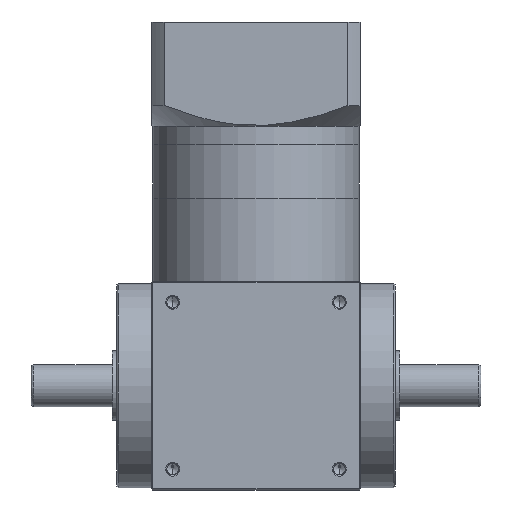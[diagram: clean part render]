
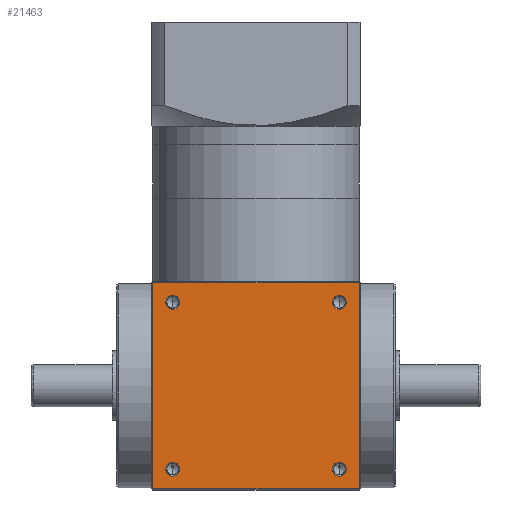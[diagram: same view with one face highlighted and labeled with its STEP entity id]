
A CAD part, front view. The second image highlights one B-rep face of the part: STEP entity #21463.
In plain terms, the highlighted planar face has unit normal (0, -1, 0).
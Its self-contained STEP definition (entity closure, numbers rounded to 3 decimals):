
#980 = ORIENTED_EDGE ( 'NONE', *, *, #32194, .F. ) ;
#1149 = ORIENTED_EDGE ( 'NONE', *, *, #29685, .F. ) ;
#1164 = CARTESIAN_POINT ( 'NONE',  ( -36., -45., 77.975 ) ) ;
#2718 = DIRECTION ( 'NONE',  ( 0., 0., -1. ) ) ;
#3027 = VERTEX_POINT ( 'NONE', #28758 ) ;
#3076 = DIRECTION ( 'NONE',  ( 0., 0., -1. ) ) ;
#3318 = CARTESIAN_POINT ( 'NONE',  ( 36., -45., 84.025 ) ) ;
#5796 = AXIS2_PLACEMENT_3D ( 'NONE', #20729, #48895, #24771 ) ;
#5912 = VECTOR ( 'NONE', #44303, 1000. ) ;
#6204 = EDGE_CURVE ( 'NONE', #38896, #27526, #43101, .T. ) ;
#6647 = DIRECTION ( 'NONE',  ( 0., -1., 0. ) ) ;
#6741 = EDGE_CURVE ( 'NONE', #27526, #22471, #36122, .T. ) ;
#6920 = FACE_BOUND ( 'NONE', #34836, .T. ) ;
#7423 = ORIENTED_EDGE ( 'NONE', *, *, #42233, .F. ) ;
#8175 = FACE_BOUND ( 'NONE', #30860, .T. ) ;
#8548 = CARTESIAN_POINT ( 'NONE',  ( -45., -45., 0.5 ) ) ;
#8949 = ORIENTED_EDGE ( 'NONE', *, *, #22739, .F. ) ;
#9527 = ORIENTED_EDGE ( 'NONE', *, *, #47972, .F. ) ;
#10433 = CARTESIAN_POINT ( 'NONE',  ( 36., -45., 81. ) ) ;
#10448 = ORIENTED_EDGE ( 'NONE', *, *, #43545, .F. ) ;
#10800 = DIRECTION ( 'NONE',  ( 0., -1., 0. ) ) ;
#10878 = AXIS2_PLACEMENT_3D ( 'NONE', #21393, #49551, #25433 ) ;
#12781 = VERTEX_POINT ( 'NONE', #29702 ) ;
#13660 = AXIS2_PLACEMENT_3D ( 'NONE', #47299, #23169, #51337 ) ;
#14415 = CIRCLE ( 'NONE', #13660, 3.025 ) ;
#14488 = DIRECTION ( 'NONE',  ( 0., 0., -1. ) ) ;
#16092 = ORIENTED_EDGE ( 'NONE', *, *, #35480, .F. ) ;
#17361 = EDGE_LOOP ( 'NONE', ( #19218, #50260, #1149, #16092 ) ) ;
#17401 = CARTESIAN_POINT ( 'NONE',  ( -44.5, -45., 90. ) ) ;
#17606 = FACE_BOUND ( 'NONE', #43453, .T. ) ;
#17938 = AXIS2_PLACEMENT_3D ( 'NONE', #34914, #10800, #38976 ) ;
#18424 = DIRECTION ( 'NONE',  ( 0., 0., 1. ) ) ;
#18580 = VERTEX_POINT ( 'NONE', #43973 ) ;
#19218 = ORIENTED_EDGE ( 'NONE', *, *, #6741, .F. ) ;
#20269 = AXIS2_PLACEMENT_3D ( 'NONE', #50901, #26760, #2718 ) ;
#20537 = DIRECTION ( 'NONE',  ( 0., 0., -1. ) ) ;
#20618 = AXIS2_PLACEMENT_3D ( 'NONE', #51252, #27123, #3076 ) ;
#20729 = CARTESIAN_POINT ( 'NONE',  ( 36., -45., 9. ) ) ;
#21393 = CARTESIAN_POINT ( 'NONE',  ( -36., -45., 9. ) ) ;
#21463 = ADVANCED_FACE ( 'NONE', ( #17606, #8175, #28281, #6920, #48452 ), #30410, .F. ) ;
#21626 = VECTOR ( 'NONE', #20537, 1000. ) ;
#22471 = VERTEX_POINT ( 'NONE', #39591 ) ;
#22739 = EDGE_CURVE ( 'NONE', #31166, #31361, #51824, .T. ) ;
#23169 = DIRECTION ( 'NONE',  ( 0., -1., 0. ) ) ;
#24771 = DIRECTION ( 'NONE',  ( 0., 0., -1. ) ) ;
#24959 = CARTESIAN_POINT ( 'NONE',  ( -44.5, -45., 89.5 ) ) ;
#25433 = DIRECTION ( 'NONE',  ( 0., 0., -1. ) ) ;
#25636 = EDGE_CURVE ( 'NONE', #41443, #12781, #14415, .T. ) ;
#25664 = CARTESIAN_POINT ( 'NONE',  ( -36., -45., 12.025 ) ) ;
#25955 = ORIENTED_EDGE ( 'NONE', *, *, #31722, .F. ) ;
#26760 = DIRECTION ( 'NONE',  ( 0., -1., 0. ) ) ;
#27029 = CARTESIAN_POINT ( 'NONE',  ( 44.5, -45., 89.5 ) ) ;
#27123 = DIRECTION ( 'NONE',  ( 0., -1., 0. ) ) ;
#27526 = VERTEX_POINT ( 'NONE', #44520 ) ;
#27665 = AXIS2_PLACEMENT_3D ( 'NONE', #30731, #6647, #34791 ) ;
#28281 = FACE_BOUND ( 'NONE', #51269, .T. ) ;
#28532 = LINE ( 'NONE', #36217, #5912 ) ;
#28758 = CARTESIAN_POINT ( 'NONE',  ( 36., -45., 77.975 ) ) ;
#28778 = CARTESIAN_POINT ( 'NONE',  ( -36., -45., 5.975 ) ) ;
#29685 = EDGE_CURVE ( 'NONE', #30750, #38896, #28532, .T. ) ;
#29702 = CARTESIAN_POINT ( 'NONE',  ( 36., -45., 5.975 ) ) ;
#30280 = VERTEX_POINT ( 'NONE', #1164 ) ;
#30410 = PLANE ( 'NONE',  #50959 ) ;
#30731 = CARTESIAN_POINT ( 'NONE',  ( -36., -45., 81. ) ) ;
#30750 = VERTEX_POINT ( 'NONE', #24959 ) ;
#30860 = EDGE_LOOP ( 'NONE', ( #980, #25955 ) ) ;
#31166 = VERTEX_POINT ( 'NONE', #28778 ) ;
#31361 = VERTEX_POINT ( 'NONE', #25664 ) ;
#31722 = EDGE_CURVE ( 'NONE', #18580, #30280, #33426, .T. ) ;
#32194 = EDGE_CURVE ( 'NONE', #30280, #18580, #49107, .T. ) ;
#32638 = DIRECTION ( 'NONE',  ( -1., 0., 0. ) ) ;
#33178 = LINE ( 'NONE', #17401, #42646 ) ;
#33426 = CIRCLE ( 'NONE', #27665, 3.025 ) ;
#34347 = ORIENTED_EDGE ( 'NONE', *, *, #25636, .F. ) ;
#34791 = DIRECTION ( 'NONE',  ( 0., 0., -1. ) ) ;
#34836 = EDGE_LOOP ( 'NONE', ( #8949, #35461 ) ) ;
#34914 = CARTESIAN_POINT ( 'NONE',  ( -36., -45., 9. ) ) ;
#35461 = ORIENTED_EDGE ( 'NONE', *, *, #43519, .F. ) ;
#35480 = EDGE_CURVE ( 'NONE', #22471, #30750, #33178, .T. ) ;
#36122 = LINE ( 'NONE', #8548, #46799 ) ;
#36217 = CARTESIAN_POINT ( 'NONE',  ( -45., -45., 89.5 ) ) ;
#36795 = CIRCLE ( 'NONE', #20618, 3.025 ) ;
#38063 = CIRCLE ( 'NONE', #17938, 3.025 ) ;
#38348 = CIRCLE ( 'NONE', #47802, 3.025 ) ;
#38610 = DIRECTION ( 'NONE',  ( 0., -1., 0. ) ) ;
#38713 = CIRCLE ( 'NONE', #5796, 3.025 ) ;
#38896 = VERTEX_POINT ( 'NONE', #27029 ) ;
#38976 = DIRECTION ( 'NONE',  ( 0., 0., -1. ) ) ;
#39591 = CARTESIAN_POINT ( 'NONE',  ( -44.5, -45., 0.5 ) ) ;
#40486 = CARTESIAN_POINT ( 'NONE',  ( 44.5, -45., 90. ) ) ;
#41118 = VERTEX_POINT ( 'NONE', #3318 ) ;
#41443 = VERTEX_POINT ( 'NONE', #42168 ) ;
#42168 = CARTESIAN_POINT ( 'NONE',  ( 36., -45., 12.025 ) ) ;
#42233 = EDGE_CURVE ( 'NONE', #12781, #41443, #38713, .T. ) ;
#42595 = DIRECTION ( 'NONE',  ( 0., 1., 0. ) ) ;
#42646 = VECTOR ( 'NONE', #45555, 1000. ) ;
#43101 = LINE ( 'NONE', #40486, #21626 ) ;
#43453 = EDGE_LOOP ( 'NONE', ( #10448, #9527 ) ) ;
#43519 = EDGE_CURVE ( 'NONE', #31361, #31166, #38063, .T. ) ;
#43545 = EDGE_CURVE ( 'NONE', #3027, #41118, #36795, .T. ) ;
#43973 = CARTESIAN_POINT ( 'NONE',  ( -36., -45., 84.025 ) ) ;
#44303 = DIRECTION ( 'NONE',  ( 1., 0., 0. ) ) ;
#44520 = CARTESIAN_POINT ( 'NONE',  ( 44.5, -45., 0.5 ) ) ;
#45555 = DIRECTION ( 'NONE',  ( 0., 0., 1. ) ) ;
#46432 = CARTESIAN_POINT ( 'NONE',  ( -45., -45., 90. ) ) ;
#46799 = VECTOR ( 'NONE', #32638, 1000. ) ;
#47299 = CARTESIAN_POINT ( 'NONE',  ( 36., -45., 9. ) ) ;
#47802 = AXIS2_PLACEMENT_3D ( 'NONE', #10433, #38610, #14488 ) ;
#47972 = EDGE_CURVE ( 'NONE', #41118, #3027, #38348, .T. ) ;
#48452 = FACE_OUTER_BOUND ( 'NONE', #17361, .T. ) ;
#48895 = DIRECTION ( 'NONE',  ( 0., -1., 0. ) ) ;
#49107 = CIRCLE ( 'NONE', #20269, 3.025 ) ;
#49551 = DIRECTION ( 'NONE',  ( 0., -1., 0. ) ) ;
#50260 = ORIENTED_EDGE ( 'NONE', *, *, #6204, .F. ) ;
#50901 = CARTESIAN_POINT ( 'NONE',  ( -36., -45., 81. ) ) ;
#50959 = AXIS2_PLACEMENT_3D ( 'NONE', #46432, #42595, #18424 ) ;
#51252 = CARTESIAN_POINT ( 'NONE',  ( 36., -45., 81. ) ) ;
#51269 = EDGE_LOOP ( 'NONE', ( #7423, #34347 ) ) ;
#51337 = DIRECTION ( 'NONE',  ( 0., 0., -1. ) ) ;
#51824 = CIRCLE ( 'NONE', #10878, 3.025 ) ;
